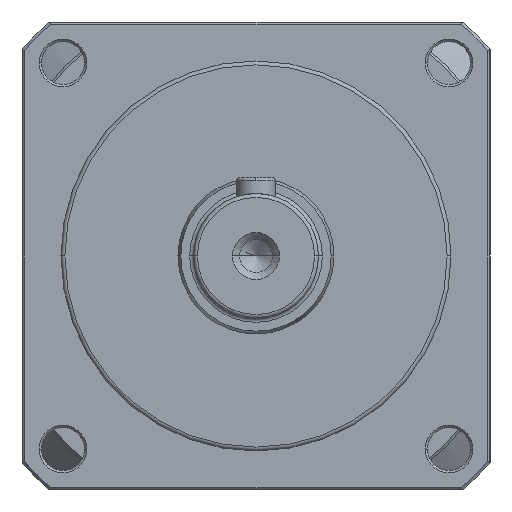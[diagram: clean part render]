
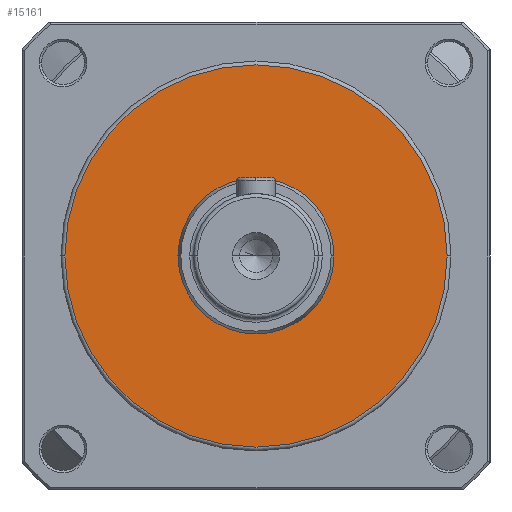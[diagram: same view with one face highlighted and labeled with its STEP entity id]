
A CAD part, left-side view. The second image highlights one B-rep face of the part: STEP entity #15161.
In plain terms, the highlighted planar face has unit normal (-1, 0, 0).
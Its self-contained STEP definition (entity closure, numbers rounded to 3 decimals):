
#431 = EDGE_LOOP ( 'NONE', ( #60637, #46812 ) ) ;
#718 = EDGE_CURVE ( 'NONE', #56513, #27377, #11167, .T. ) ;
#3031 = CARTESIAN_POINT ( 'NONE',  ( -107., 0.88, -0.972 ) ) ;
#6391 = EDGE_CURVE ( 'NONE', #23801, #22591, #9600, .T. ) ;
#6688 = EDGE_CURVE ( 'NONE', #27377, #56513, #14638, .T. ) ;
#6962 = DIRECTION ( 'NONE',  ( -1., 0., 0. ) ) ;
#9071 = PLANE ( 'NONE',  #11272 ) ;
#9600 = CIRCLE ( 'NONE', #23780, 24.5 ) ;
#10651 = DIRECTION ( 'NONE',  ( 0., 0., 1. ) ) ;
#11167 = CIRCLE ( 'NONE', #52563, 10. ) ;
#11272 = AXIS2_PLACEMENT_3D ( 'NONE', #58707, #44827, #10651 ) ;
#12859 = DIRECTION ( 'NONE',  ( 0., 1., 0. ) ) ;
#12934 = DIRECTION ( 'NONE',  ( 0., -1., 0. ) ) ;
#13536 = FACE_BOUND ( 'NONE', #431, .T. ) ;
#14638 = CIRCLE ( 'NONE', #49965, 10. ) ;
#15161 = ADVANCED_FACE ( 'NONE', ( #13536, #53049 ), #9071, .T. ) ;
#21728 = CARTESIAN_POINT ( 'NONE',  ( -107., 10.88, -0.972 ) ) ;
#21986 = DIRECTION ( 'NONE',  ( 0., 1., 0. ) ) ;
#22591 = VERTEX_POINT ( 'NONE', #35544 ) ;
#23780 = AXIS2_PLACEMENT_3D ( 'NONE', #36697, #27216, #12934 ) ;
#23801 = VERTEX_POINT ( 'NONE', #30184 ) ;
#26149 = EDGE_CURVE ( 'NONE', #22591, #23801, #59231, .T. ) ;
#26953 = CARTESIAN_POINT ( 'NONE',  ( -107., 0.88, -0.972 ) ) ;
#27216 = DIRECTION ( 'NONE',  ( -1., 0., 0. ) ) ;
#27377 = VERTEX_POINT ( 'NONE', #54646 ) ;
#30060 = EDGE_LOOP ( 'NONE', ( #39163, #40077 ) ) ;
#30184 = CARTESIAN_POINT ( 'NONE',  ( -107., 25.38, -0.972 ) ) ;
#35544 = CARTESIAN_POINT ( 'NONE',  ( -107., -23.62, -0.972 ) ) ;
#36697 = CARTESIAN_POINT ( 'NONE',  ( -107., 0.88, -0.972 ) ) ;
#37459 = DIRECTION ( 'NONE',  ( 1., 0., 0. ) ) ;
#39163 = ORIENTED_EDGE ( 'NONE', *, *, #26149, .T. ) ;
#40077 = ORIENTED_EDGE ( 'NONE', *, *, #6391, .T. ) ;
#42504 = CARTESIAN_POINT ( 'NONE',  ( -107., 0.88, -0.972 ) ) ;
#44827 = DIRECTION ( 'NONE',  ( -1., 0., 0. ) ) ;
#45104 = AXIS2_PLACEMENT_3D ( 'NONE', #26953, #6962, #55386 ) ;
#45771 = DIRECTION ( 'NONE',  ( 1., 0., 0. ) ) ;
#46812 = ORIENTED_EDGE ( 'NONE', *, *, #6688, .T. ) ;
#49965 = AXIS2_PLACEMENT_3D ( 'NONE', #3031, #45771, #12859 ) ;
#52563 = AXIS2_PLACEMENT_3D ( 'NONE', #42504, #37459, #21986 ) ;
#53049 = FACE_OUTER_BOUND ( 'NONE', #30060, .T. ) ;
#54646 = CARTESIAN_POINT ( 'NONE',  ( -107., -9.12, -0.972 ) ) ;
#55386 = DIRECTION ( 'NONE',  ( 0., -1., 0. ) ) ;
#56513 = VERTEX_POINT ( 'NONE', #21728 ) ;
#58707 = CARTESIAN_POINT ( 'NONE',  ( -107., 0.88, -0.972 ) ) ;
#59231 = CIRCLE ( 'NONE', #45104, 24.5 ) ;
#60637 = ORIENTED_EDGE ( 'NONE', *, *, #718, .T. ) ;
